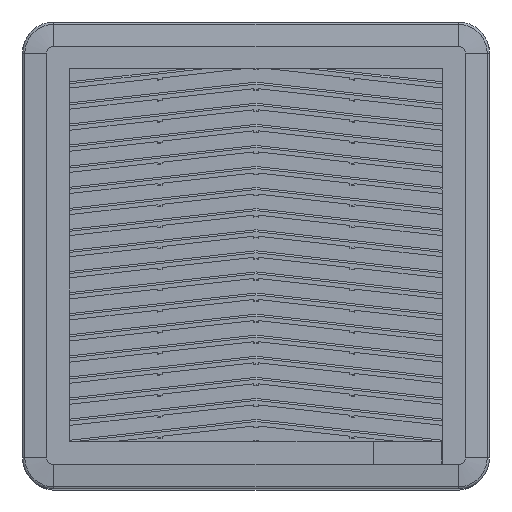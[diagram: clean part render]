
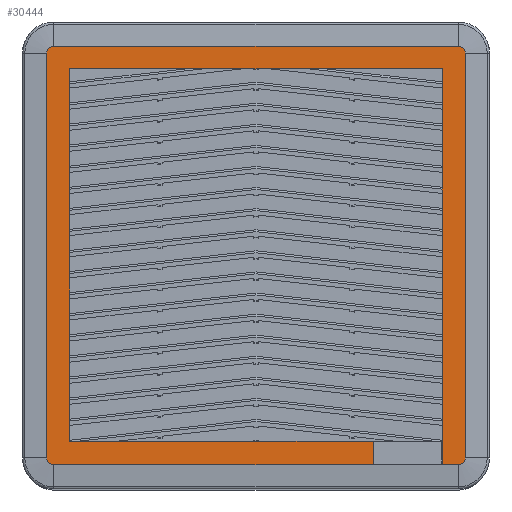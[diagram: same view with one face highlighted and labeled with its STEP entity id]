
A CAD part, front view. The second image highlights one B-rep face of the part: STEP entity #30444.
In plain terms, the highlighted planar face has unit normal (0, -1, 0) as drawn and (0, 0, 1) by its records, which use the part's own axes.
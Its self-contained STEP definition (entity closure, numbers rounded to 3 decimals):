
#152 = VECTOR ( 'NONE', #2108, 1000. ) ;
#211 = DIRECTION ( 'NONE',  ( 1., 0., 0. ) ) ;
#542 = EDGE_LOOP ( 'NONE', ( #32801, #33179, #10409, #21777, #7788, #11323 ) ) ;
#1062 = ORIENTED_EDGE ( 'NONE', *, *, #2906, .T. ) ;
#1501 = CARTESIAN_POINT ( 'NONE',  ( 51.1, 65.489, 3. ) ) ;
#1517 = CARTESIAN_POINT ( 'NONE',  ( -81.3, -107.611, 3. ) ) ;
#1643 = VECTOR ( 'NONE', #29803, 1000. ) ;
#1853 = LINE ( 'NONE', #1501, #7451 ) ;
#1921 = VECTOR ( 'NONE', #16930, 1000. ) ;
#2108 = DIRECTION ( 'NONE',  ( 1., 0., 0. ) ) ;
#2234 = VERTEX_POINT ( 'NONE', #4368 ) ;
#2274 = VERTEX_POINT ( 'NONE', #7522 ) ;
#2424 = VERTEX_POINT ( 'NONE', #33456 ) ;
#2580 = CARTESIAN_POINT ( 'NONE',  ( -81.8, 55.689, 3. ) ) ;
#2772 = AXIS2_PLACEMENT_3D ( 'NONE', #33892, #31228, #23836 ) ;
#2906 = EDGE_CURVE ( 'NONE', #8160, #22437, #11280, .T. ) ;
#2932 = FACE_BOUND ( 'NONE', #542, .T. ) ;
#3004 = VERTEX_POINT ( 'NONE', #24905 ) ;
#3080 = EDGE_CURVE ( 'NONE', #2234, #17936, #27905, .T. ) ;
#3325 = CARTESIAN_POINT ( 'NONE',  ( 51.1, -117.011, 3. ) ) ;
#3831 = CARTESIAN_POINT ( 'NONE',  ( 81.3, 55.689, 3. ) ) ;
#3943 = CARTESIAN_POINT ( 'NONE',  ( 88.3, 62.489, 3. ) ) ;
#4368 = CARTESIAN_POINT ( 'NONE',  ( 81.3, -117.011, 3. ) ) ;
#5526 = CARTESIAN_POINT ( 'NONE',  ( -88.3, -117.111, 3. ) ) ;
#6111 = DIRECTION ( 'NONE',  ( 0., -1., 0. ) ) ;
#6284 = DIRECTION ( 'NONE',  ( -1., 0., 0. ) ) ;
#6379 = CARTESIAN_POINT ( 'NONE',  ( -91.3, 62.489, 3. ) ) ;
#6700 = VERTEX_POINT ( 'NONE', #23065 ) ;
#7048 = ORIENTED_EDGE ( 'NONE', *, *, #28789, .T. ) ;
#7107 = DIRECTION ( 'NONE',  ( 1., 0., 0. ) ) ;
#7451 = VECTOR ( 'NONE', #17941, 1000. ) ;
#7522 = CARTESIAN_POINT ( 'NONE',  ( -81.3, 55.689, 3. ) ) ;
#7569 = DIRECTION ( 'NONE',  ( 1., 0., 0. ) ) ;
#7788 = ORIENTED_EDGE ( 'NONE', *, *, #16193, .F. ) ;
#8083 = DIRECTION ( 'NONE',  ( 0., 1., 0. ) ) ;
#8160 = VERTEX_POINT ( 'NONE', #10561 ) ;
#8285 = AXIS2_PLACEMENT_3D ( 'NONE', #22335, #33082, #211 ) ;
#8916 = CARTESIAN_POINT ( 'NONE',  ( -91.3, -117.011, 3. ) ) ;
#8929 = LINE ( 'NONE', #1517, #8977 ) ;
#8977 = VECTOR ( 'NONE', #12289, 1000. ) ;
#10060 = CARTESIAN_POINT ( 'NONE',  ( 0., -117.111, 3. ) ) ;
#10397 = VECTOR ( 'NONE', #8083, 1000. ) ;
#10409 = ORIENTED_EDGE ( 'NONE', *, *, #20192, .T. ) ;
#10561 = CARTESIAN_POINT ( 'NONE',  ( 91.3, -114.111, 3. ) ) ;
#10724 = CIRCLE ( 'NONE', #14691, 3. ) ;
#11280 = LINE ( 'NONE', #32846, #10397 ) ;
#11323 = ORIENTED_EDGE ( 'NONE', *, *, #23395, .F. ) ;
#11326 = CARTESIAN_POINT ( 'NONE',  ( 81.8, -106.811, 3. ) ) ;
#11525 = LINE ( 'NONE', #21801, #18649 ) ;
#12289 = DIRECTION ( 'NONE',  ( 0., -1., 0. ) ) ;
#12433 = EDGE_CURVE ( 'NONE', #3004, #30146, #18492, .T. ) ;
#12642 = ORIENTED_EDGE ( 'NONE', *, *, #17343, .T. ) ;
#12774 = EDGE_CURVE ( 'NONE', #25400, #6700, #24253, .T. ) ;
#13889 = CARTESIAN_POINT ( 'NONE',  ( -91.3, 65.489, 3. ) ) ;
#14272 = VERTEX_POINT ( 'NONE', #3325 ) ;
#14351 = CIRCLE ( 'NONE', #27312, 3. ) ;
#14585 = VECTOR ( 'NONE', #17859, 1000. ) ;
#14686 = EDGE_CURVE ( 'NONE', #30338, #8160, #25386, .T. ) ;
#14691 = AXIS2_PLACEMENT_3D ( 'NONE', #31796, #15534, #7569 ) ;
#14829 = AXIS2_PLACEMENT_3D ( 'NONE', #13889, #21877, #6111 ) ;
#15502 = FACE_OUTER_BOUND ( 'NONE', #16892, .T. ) ;
#15534 = DIRECTION ( 'NONE',  ( 0., 0., 1. ) ) ;
#16193 = EDGE_CURVE ( 'NONE', #2274, #25400, #8929, .T. ) ;
#16653 = CARTESIAN_POINT ( 'NONE',  ( -81.3, -106.811, 3. ) ) ;
#16892 = EDGE_LOOP ( 'NONE', ( #7048, #24777, #19728, #1062, #29624, #12642, #22260, #31175 ) ) ;
#16930 = DIRECTION ( 'NONE',  ( 0., 1., 0. ) ) ;
#17066 = LINE ( 'NONE', #8916, #18107 ) ;
#17343 = EDGE_CURVE ( 'NONE', #20417, #3004, #11525, .T. ) ;
#17859 = DIRECTION ( 'NONE',  ( 0., -1., 0. ) ) ;
#17936 = VERTEX_POINT ( 'NONE', #3831 ) ;
#17941 = DIRECTION ( 'NONE',  ( 0., 1., 0. ) ) ;
#18107 = VECTOR ( 'NONE', #6284, 1000. ) ;
#18218 = LINE ( 'NONE', #23707, #14585 ) ;
#18492 = CIRCLE ( 'NONE', #8285, 3. ) ;
#18649 = VECTOR ( 'NONE', #22338, 1000. ) ;
#19728 = ORIENTED_EDGE ( 'NONE', *, *, #14686, .T. ) ;
#20192 = EDGE_CURVE ( 'NONE', #14272, #6700, #1853, .T. ) ;
#20417 = VERTEX_POINT ( 'NONE', #24817 ) ;
#21777 = ORIENTED_EDGE ( 'NONE', *, *, #12774, .F. ) ;
#21801 = CARTESIAN_POINT ( 'NONE',  ( 0., 65.489, 3. ) ) ;
#21877 = DIRECTION ( 'NONE',  ( 0., 0., 1. ) ) ;
#22260 = ORIENTED_EDGE ( 'NONE', *, *, #12433, .T. ) ;
#22335 = CARTESIAN_POINT ( 'NONE',  ( -88.3, 62.489, 3. ) ) ;
#22338 = DIRECTION ( 'NONE',  ( -1., 0., 0. ) ) ;
#22437 = VERTEX_POINT ( 'NONE', #25177 ) ;
#23050 = EDGE_CURVE ( 'NONE', #30146, #2424, #18218, .T. ) ;
#23065 = CARTESIAN_POINT ( 'NONE',  ( 51.1, -106.811, 3. ) ) ;
#23395 = EDGE_CURVE ( 'NONE', #17936, #2274, #24507, .T. ) ;
#23707 = CARTESIAN_POINT ( 'NONE',  ( -91.3, -25.811, 3. ) ) ;
#23836 = DIRECTION ( 'NONE',  ( 1., 0., 0. ) ) ;
#24253 = LINE ( 'NONE', #11326, #25864 ) ;
#24507 = LINE ( 'NONE', #2580, #1643 ) ;
#24777 = ORIENTED_EDGE ( 'NONE', *, *, #33036, .T. ) ;
#24817 = CARTESIAN_POINT ( 'NONE',  ( 88.3, 65.489, 3. ) ) ;
#24905 = CARTESIAN_POINT ( 'NONE',  ( -88.3, 65.489, 3. ) ) ;
#25177 = CARTESIAN_POINT ( 'NONE',  ( 91.3, 62.489, 3. ) ) ;
#25373 = VERTEX_POINT ( 'NONE', #5526 ) ;
#25386 = CIRCLE ( 'NONE', #2772, 3. ) ;
#25400 = VERTEX_POINT ( 'NONE', #16653 ) ;
#25864 = VECTOR ( 'NONE', #27238, 1000. ) ;
#27238 = DIRECTION ( 'NONE',  ( 1., 0., 0. ) ) ;
#27312 = AXIS2_PLACEMENT_3D ( 'NONE', #3943, #33463, #7107 ) ;
#27905 = LINE ( 'NONE', #30366, #1921 ) ;
#28648 = LINE ( 'NONE', #10060, #152 ) ;
#28789 = EDGE_CURVE ( 'NONE', #2424, #25373, #10724, .T. ) ;
#29466 = EDGE_CURVE ( 'NONE', #2234, #14272, #17066, .T. ) ;
#29624 = ORIENTED_EDGE ( 'NONE', *, *, #34150, .T. ) ;
#29803 = DIRECTION ( 'NONE',  ( -1., 0., 0. ) ) ;
#30146 = VERTEX_POINT ( 'NONE', #6379 ) ;
#30156 = PLANE ( 'NONE',  #14829 ) ;
#30338 = VERTEX_POINT ( 'NONE', #34923 ) ;
#30366 = CARTESIAN_POINT ( 'NONE',  ( 81.3, 58.863, 3. ) ) ;
#30444 = ADVANCED_FACE ( 'NONE', ( #15502, #2932 ), #30156, .T. ) ;
#31175 = ORIENTED_EDGE ( 'NONE', *, *, #23050, .T. ) ;
#31228 = DIRECTION ( 'NONE',  ( 0., 0., 1. ) ) ;
#31796 = CARTESIAN_POINT ( 'NONE',  ( -88.3, -114.111, 3. ) ) ;
#32801 = ORIENTED_EDGE ( 'NONE', *, *, #3080, .F. ) ;
#32846 = CARTESIAN_POINT ( 'NONE',  ( 91.3, -25.811, 3. ) ) ;
#33036 = EDGE_CURVE ( 'NONE', #25373, #30338, #28648, .T. ) ;
#33082 = DIRECTION ( 'NONE',  ( 0., 0., 1. ) ) ;
#33179 = ORIENTED_EDGE ( 'NONE', *, *, #29466, .T. ) ;
#33456 = CARTESIAN_POINT ( 'NONE',  ( -91.3, -114.111, 3. ) ) ;
#33463 = DIRECTION ( 'NONE',  ( 0., 0., 1. ) ) ;
#33892 = CARTESIAN_POINT ( 'NONE',  ( 88.3, -114.111, 3. ) ) ;
#34150 = EDGE_CURVE ( 'NONE', #22437, #20417, #14351, .T. ) ;
#34923 = CARTESIAN_POINT ( 'NONE',  ( 88.3, -117.111, 3. ) ) ;
